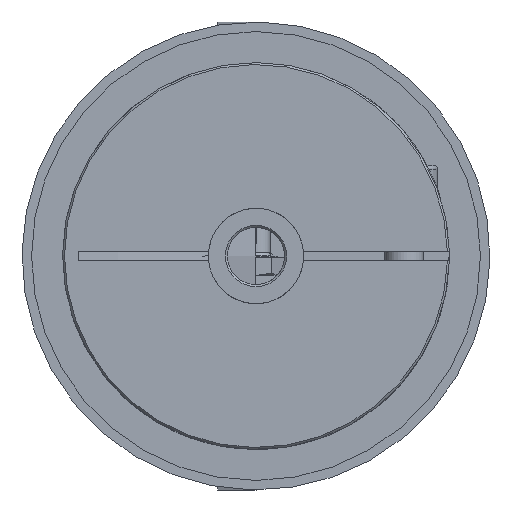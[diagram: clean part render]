
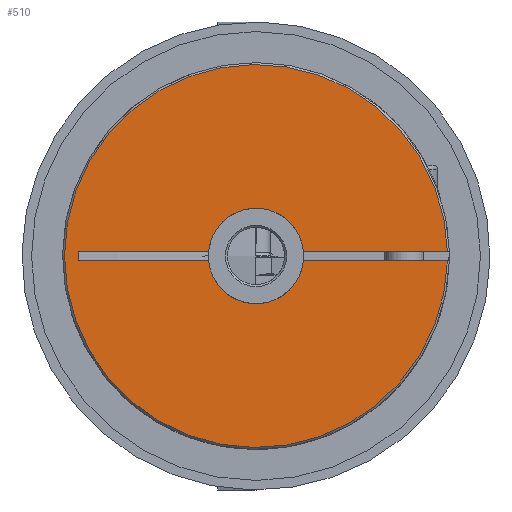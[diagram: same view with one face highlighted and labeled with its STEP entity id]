
A CAD part, left-side view. The second image highlights one B-rep face of the part: STEP entity #510.
In plain terms, the highlighted planar face has unit normal (-1, 0, 0).
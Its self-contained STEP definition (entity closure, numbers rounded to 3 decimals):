
#510 = ADVANCED_FACE( 'NONE', ( #1121 ), #1122, .F. );
#1121 = FACE_OUTER_BOUND( '', #1745, .T. );
#1122 = PLANE( '', #1746 );
#1745 = EDGE_LOOP( '', ( #2945, #2946, #2947, #2948, #2949, #2950, #2951, #2952 ) );
#1746 = AXIS2_PLACEMENT_3D( '', #2953, #2954, #2955 );
#2945 = ORIENTED_EDGE( '', *, *, #3418, .T. );
#2946 = ORIENTED_EDGE( '', *, *, #3400, .T. );
#2947 = ORIENTED_EDGE( '', *, *, #3402, .T. );
#2948 = ORIENTED_EDGE( '', *, *, #3417, .T. );
#2949 = ORIENTED_EDGE( '', *, *, #3384, .F. );
#2950 = ORIENTED_EDGE( '', *, *, #3395, .T. );
#2951 = ORIENTED_EDGE( '', *, *, #3419, .F. );
#2952 = ORIENTED_EDGE( '', *, *, #3392, .T. );
#2953 = CARTESIAN_POINT( '', ( 0., 3., 0. ) );
#2954 = DIRECTION( '', ( 1., 0., 0. ) );
#2955 = DIRECTION( '', ( 0., 1., 0. ) );
#3384 = EDGE_CURVE( '', #3923, #3926, #3927, .F. );
#3392 = EDGE_CURVE( 'NONE', #3936, #3940, #3942, .T. );
#3395 = EDGE_CURVE( '', #3923, #3945, #3947, .T. );
#3400 = EDGE_CURVE( '', #3956, #3954, #3957, .T. );
#3402 = EDGE_CURVE( '', #3954, #3959, #3960, .T. );
#3417 = EDGE_CURVE( 'NONE', #3959, #3926, #3984, .F. );
#3418 = EDGE_CURVE( 'NONE', #3940, #3956, #3985, .T. );
#3419 = EDGE_CURVE( 'NONE', #3936, #3945, #3986, .F. );
#3923 = VERTEX_POINT( '', #4749 );
#3926 = VERTEX_POINT( 'NONE', #4753 );
#3927 = LINE( '', #4754, #4755 );
#3936 = VERTEX_POINT( 'NONE', #4769 );
#3940 = VERTEX_POINT( 'NONE', #4776 );
#3942 = LINE( '', #4778, #4779 );
#3945 = VERTEX_POINT( '', #4782 );
#3947 = CIRCLE( '', #4785, 5. );
#3954 = VERTEX_POINT( '', #4793 );
#3956 = VERTEX_POINT( '', #4796 );
#3957 = CIRCLE( '', #4797, 5. );
#3959 = VERTEX_POINT( 'NONE', #4800 );
#3960 = LINE( '', #4801, #4802 );
#3984 = CIRCLE( '', #4960, 20.05 );
#3985 = LINE( '', #4961, #4962 );
#3986 = LINE( '', #4963, #4964 );
#4749 = CARTESIAN_POINT( '', ( 0., -4.975, -0.5 ) );
#4753 = CARTESIAN_POINT( '', ( 0., -20.044, -0.5 ) );
#4754 = CARTESIAN_POINT( '', ( 0., -3.5, -0.5 ) );
#4755 = VECTOR( '', #5639, 1000. );
#4769 = CARTESIAN_POINT( '', ( 0., 18.545, -0.5 ) );
#4776 = CARTESIAN_POINT( '', ( 0., 18.545, 0.5 ) );
#4778 = CARTESIAN_POINT( '', ( 0., 18.545, -0.5 ) );
#4779 = VECTOR( '', #5651, 1000. );
#4782 = CARTESIAN_POINT( '', ( 0., 4.975, -0.5 ) );
#4785 = AXIS2_PLACEMENT_3D( '', #5656, #5657, #5658 );
#4793 = CARTESIAN_POINT( '', ( 0., -4.975, 0.5 ) );
#4796 = CARTESIAN_POINT( '', ( 0., 4.975, 0.5 ) );
#4797 = AXIS2_PLACEMENT_3D( '', #5667, #5668, #5669 );
#4800 = CARTESIAN_POINT( '', ( 0., -20.044, 0.5 ) );
#4801 = CARTESIAN_POINT( '', ( 0., 3., 0.5 ) );
#4802 = VECTOR( '', #5671, 1000. );
#4960 = AXIS2_PLACEMENT_3D( '', #5699, #5700, #5701 );
#4961 = CARTESIAN_POINT( '', ( 0., 3., 0.5 ) );
#4962 = VECTOR( '', #5702, 1000. );
#4963 = CARTESIAN_POINT( '', ( 0., -3.5, -0.5 ) );
#4964 = VECTOR( '', #5703, 1000. );
#5639 = DIRECTION( '', ( 0., 1., 0. ) );
#5651 = DIRECTION( '', ( 0., 0., 1. ) );
#5656 = CARTESIAN_POINT( '', ( 0., 0., 0. ) );
#5657 = DIRECTION( '', ( 1., 0., 0. ) );
#5658 = DIRECTION( '', ( 0., 0., -1. ) );
#5667 = CARTESIAN_POINT( '', ( 0., 0., 0. ) );
#5668 = DIRECTION( '', ( 1., 0., 0. ) );
#5669 = DIRECTION( '', ( 0., 0., -1. ) );
#5671 = DIRECTION( '', ( 0., -1., 0. ) );
#5699 = CARTESIAN_POINT( '', ( 0., 0., 0. ) );
#5700 = DIRECTION( '', ( 1., 0., 0. ) );
#5701 = DIRECTION( '', ( 0., 0., -1. ) );
#5702 = DIRECTION( '', ( 0., -1., 0. ) );
#5703 = DIRECTION( '', ( 0., 1., 0. ) );
